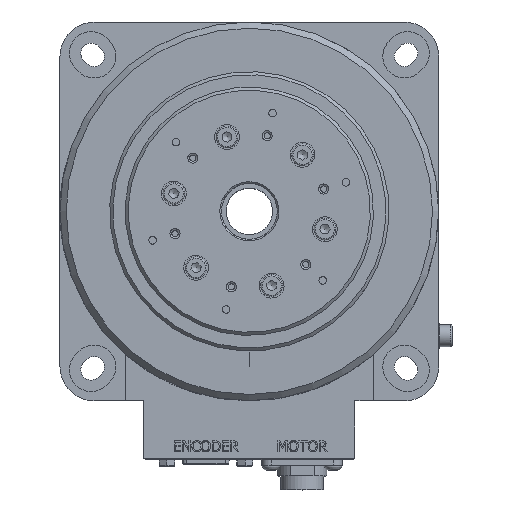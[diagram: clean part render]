
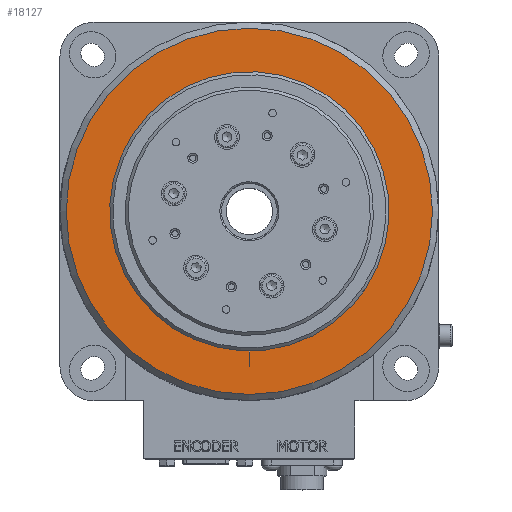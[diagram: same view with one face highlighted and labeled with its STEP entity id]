
A CAD part, top view. The second image highlights one B-rep face of the part: STEP entity #18127.
In plain terms, the highlighted planar face has unit normal (0, 0, 1).
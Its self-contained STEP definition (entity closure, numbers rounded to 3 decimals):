
#1216=LINE($,#32633,#2590);
#1220=LINE($,#32641,#2594);
#1223=LINE($,#32647,#2597);
#2590=VECTOR($,#21554,8.);
#2594=VECTOR($,#21560,0.2);
#2597=VECTOR($,#21565,8.);
#3929=FACE_BOUND($,#6077,.T.);
#3930=FACE_BOUND($,#6078,.T.);
#3931=FACE_BOUND($,#6079,.T.);
#6077=EDGE_LOOP($,(#14288,#14289,#14290,#14291));
#6078=EDGE_LOOP($,(#14292));
#6079=EDGE_LOOP($,(#14293));
#6981=CIRCLE($,#19240,42.);
#7040=CIRCLE($,#19448,59.);
#7041=CIRCLE($,#19451,42.);
#7951=VERTEX_POINT($,#32631);
#7952=VERTEX_POINT($,#32632);
#7955=VERTEX_POINT($,#32640);
#7957=VERTEX_POINT($,#32646);
#8237=VERTEX_POINT($,#36132);
#8238=VERTEX_POINT($,#36136);
#9870=EDGE_CURVE($,#7951,#7952,#1216,.T.);
#9874=EDGE_CURVE($,#7955,#7951,#1220,.T.);
#9877=EDGE_CURVE($,#7957,#7955,#1223,.T.);
#9880=EDGE_CURVE($,#7952,#7957,#6981,.T.);
#10403=EDGE_CURVE($,#8237,#8237,#7040,.T.);
#10404=EDGE_CURVE($,#8238,#8238,#7041,.T.);
#14288=ORIENTED_EDGE($,*,*,#9870,.T.);
#14289=ORIENTED_EDGE($,*,*,#9880,.T.);
#14290=ORIENTED_EDGE($,*,*,#9877,.T.);
#14291=ORIENTED_EDGE($,*,*,#9874,.T.);
#14292=ORIENTED_EDGE($,*,*,#10404,.F.);
#14293=ORIENTED_EDGE($,*,*,#10403,.F.);
#17273=PLANE($,#19450);
#18127=ADVANCED_FACE($,(#3929,#3930,#3931),#17273,.T.);
#19240=AXIS2_PLACEMENT_3D($,#32652,#21570,#21571);
#19448=AXIS2_PLACEMENT_3D($,#36133,#22285,#22286);
#19450=AXIS2_PLACEMENT_3D($,#36135,#22289,#22290);
#19451=AXIS2_PLACEMENT_3D($,#36137,#22291,#22292);
#21554=DIRECTION($,(0.,1.,0.));
#21560=DIRECTION($,(-1.,0.,0.));
#21565=DIRECTION($,(0.,-1.,0.));
#21570=DIRECTION('center_axis',(0.,0.,
1.));
#21571=DIRECTION('ref_axis',(0.002,1.,0.));
#22285=DIRECTION('center_axis',(0.,0.,
-1.));
#22286=DIRECTION('ref_axis',(0.,1.,0.));
#22289=DIRECTION('center_axis',(0.,0.,
1.));
#22290=DIRECTION('ref_axis',(0.,-1.,0.));
#22291=DIRECTION('center_axis',(0.,0.,
1.));
#22292=DIRECTION('ref_axis',(1.,0.,0.));
#32631=CARTESIAN_POINT('',(6.324,-52.988,42.5));
#32632=CARTESIAN_POINT('',(6.324,-44.987,42.5));
#32633=CARTESIAN_POINT($,(6.324,-48.988,42.5));
#32640=CARTESIAN_POINT('',(6.524,-52.988,42.5));
#32641=CARTESIAN_POINT($,(6.474,-52.988,42.5));
#32646=CARTESIAN_POINT('',(6.524,-44.987,42.5));
#32647=CARTESIAN_POINT($,(6.524,-44.987,42.5));
#32652=CARTESIAN_POINT('Origin',(6.424,-2.987,42.5));
#36132=CARTESIAN_POINT('',(6.424,-61.987,42.5));
#36133=CARTESIAN_POINT('Origin',(6.424,-2.987,42.5));
#36135=CARTESIAN_POINT('Origin',(6.424,-44.987,42.5));
#36136=CARTESIAN_POINT('',(6.424,-44.987,42.5));
#36137=CARTESIAN_POINT('Origin',(6.424,-2.987,42.5));
